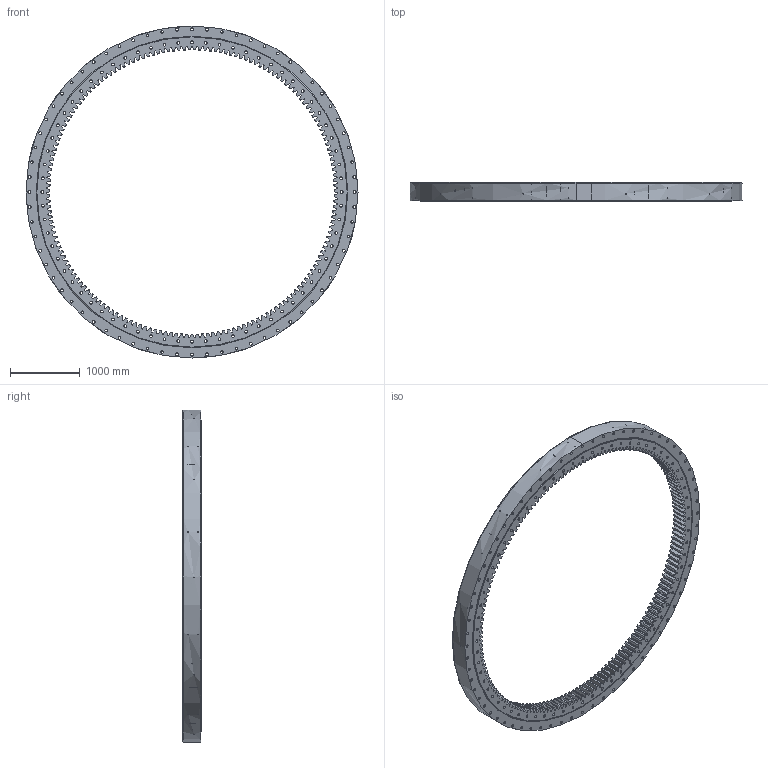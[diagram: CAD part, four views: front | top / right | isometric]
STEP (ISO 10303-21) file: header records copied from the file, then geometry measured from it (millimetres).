
FILE_DESCRIPTION (( 'STEP AP214' ), '1' );
FILE_NAME ('SM3350-1-4765AA.STEP', '2022-11-24T07:57:31', ( '' ), ( '' ), 'SwSTEP 2.0', 'SolidWorks 2020', '' );
FILE_SCHEMA (( 'AUTOMOTIVE_DESIGN' ));
Length unit declared in the file: millimetre
Products named in the file (1): SM3350-1-4765AA
Bounding box: 4765 x 268 x 4765 mm (x, y, z)
Volume: 1001260285.7 mm3; surface area: 33194353.6 mm2
Topology: 5 solids, 5 shells, 1778 faces, 5170 edges, 3443 vertices
Faces by surface type: plane 757, cylinder 666, cone 355
Entity records: 67459 total; most frequent: CARTESIAN_POINT 21338, ORIENTED_EDGE 10340, DIRECTION 8605, EDGE_CURVE 5170, VERTEX_POINT 3443, AXIS2_PLACEMENT_3D 3268, EDGE_LOOP 2205, VECTOR 2069
